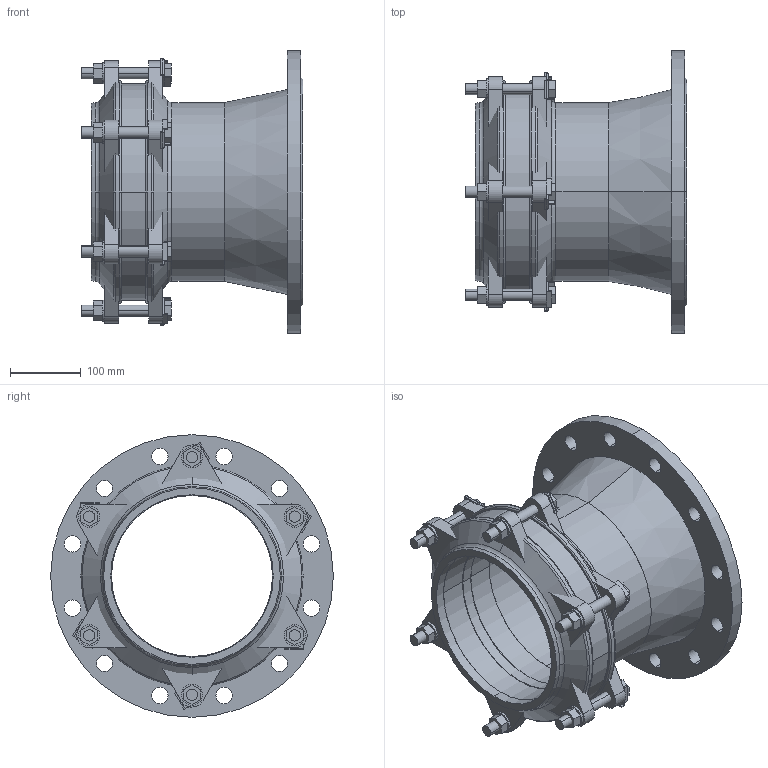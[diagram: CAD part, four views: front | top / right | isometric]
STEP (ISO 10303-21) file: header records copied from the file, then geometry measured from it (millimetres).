
FILE_DESCRIPTION(('STEP AP214'),'1');
FILE_NAME('EM00006356 DN 250-200.STP','2015-01-29T13:59:13',(' '),(' '),'Spatial InterOp 3D',' ',' ');
FILE_SCHEMA(('automotive_design'));
Length unit declared in the file: millimetre
Products named in the file (56): 3D-Objekt
Bounding box: 314 x 400 x 400 mm (x, y, z)
Volume: 5989144.9 mm3; surface area: 1283722.7 mm2
Topology: 56 solids, 56 shells, 427 faces, 942 edges, 626 vertices
Faces by surface type: plane 291, cylinder 108, cone 16, torus 12
Entity records: 16552 total; most frequent: DIRECTION 2186, CARTESIAN_POINT 2051, ORIENTED_EDGE 1884, EDGE_CURVE 942, AXIS2_PLACEMENT_3D 761, LINE 664, VECTOR 664, VERTEX_POINT 626
